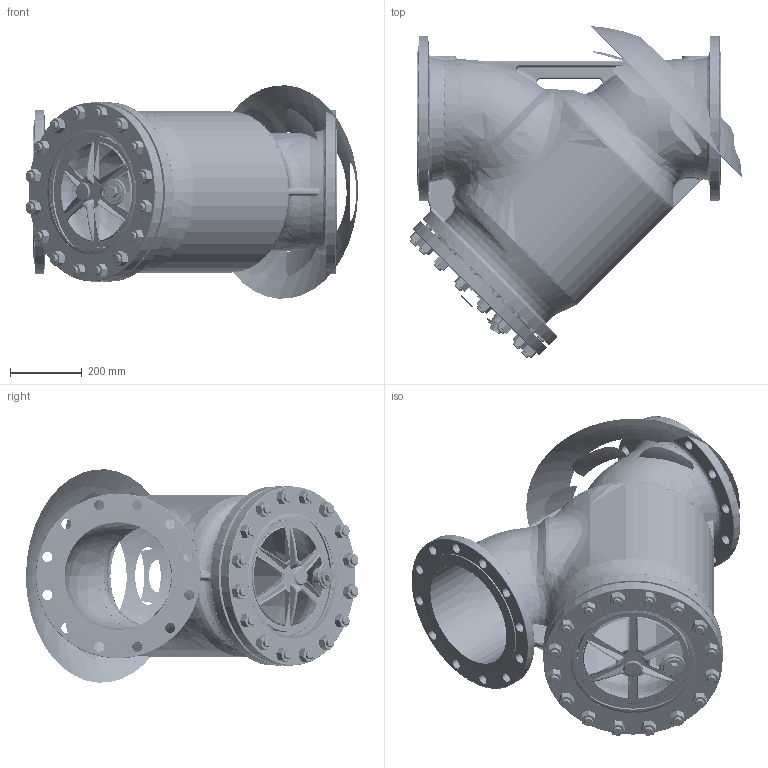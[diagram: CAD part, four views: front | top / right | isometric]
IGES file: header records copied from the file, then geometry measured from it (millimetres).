
Start section: SolidWorks IGES file using analytic representation for surfaces
Global section: file name: D:\katalog z³o¿eñ\00_Gotowe\821\RYSUNKI DXF\Z£O¯ENIA\Part\821_DN300_PN16.IGS; native system: SolidWorks 2010; preprocessor: SolidWorks 2010; author: alisowsk; date: 100108.130832; units: millimetre
Bounding box: 926.81 x 926.81 x 595.52 mm (x, y, z)
Surface area: 4124607.5 mm2 (no closed solid volume)
Topology: 0 solids, 0 shells, 1591 faces, 24939 edges, 24930 vertices
Faces by surface type: revolution 823, bspline 768
